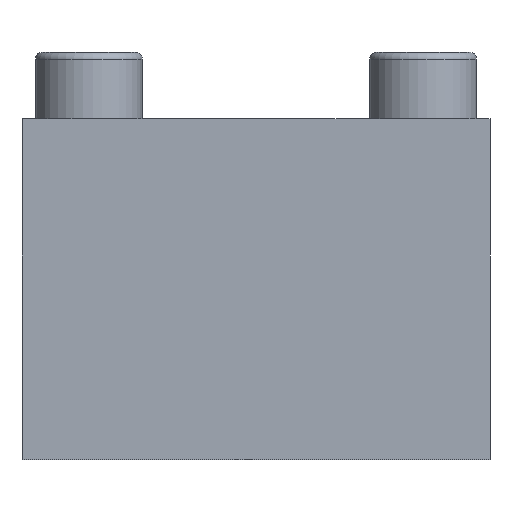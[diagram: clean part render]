
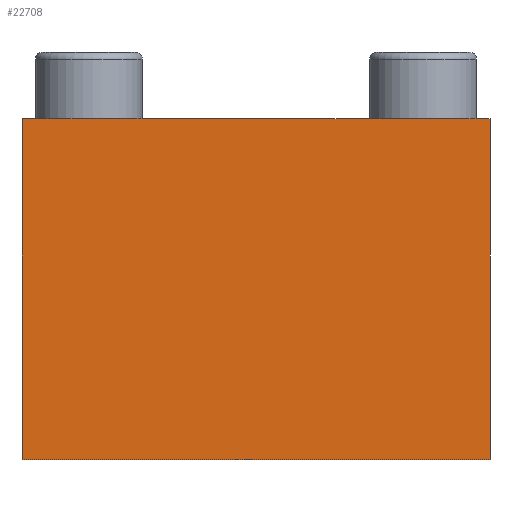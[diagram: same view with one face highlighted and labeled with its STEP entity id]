
A CAD part, front view. The second image highlights one B-rep face of the part: STEP entity #22708.
In plain terms, the highlighted planar face has unit normal (0, -1, 0).
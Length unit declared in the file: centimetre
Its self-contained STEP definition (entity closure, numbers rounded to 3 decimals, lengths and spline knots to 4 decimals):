
#1036=LINE('',#29228,#3548);
#1704=LINE('',#31878,#4216);
#1707=LINE('',#31884,#4219);
#1708=LINE('',#31885,#4220);
#3548=VECTOR('',#24875,7.);
#4216=VECTOR('',#25561,5.1);
#4219=VECTOR('',#25566,5.1);
#4220=VECTOR('',#25567,7.);
#6061=PLANE('',#23936);
#7061=FACE_OUTER_BOUND('',#8368,.T.);
#8368=EDGE_LOOP('',(#15982,#15983,#15984,#15985));
#9646=VERTEX_POINT('',#29225);
#9647=VERTEX_POINT('',#29227);
#10580=VERTEX_POINT('',#31877);
#10582=VERTEX_POINT('',#31883);
#11806=EDGE_CURVE('',#9646,#9647,#1036,.T.);
#12740=EDGE_CURVE('',#9646,#10580,#1704,.T.);
#12743=EDGE_CURVE('',#9647,#10582,#1707,.T.);
#12744=EDGE_CURVE('',#10582,#10580,#1708,.T.);
#15982=ORIENTED_EDGE('',*,*,#12743,.F.);
#15983=ORIENTED_EDGE('',*,*,#11806,.F.);
#15984=ORIENTED_EDGE('',*,*,#12740,.T.);
#15985=ORIENTED_EDGE('',*,*,#12744,.F.);
#22708=ADVANCED_FACE('',(#7061),#6061,.T.);
#23936=AXIS2_PLACEMENT_3D('',#31882,#25564,#25565);
#24875=DIRECTION('',(1.,0.,0.));
#25561=DIRECTION('',(0.,0.,-1.));
#25564=DIRECTION('center_axis',(0.,-1.,0.));
#25565=DIRECTION('ref_axis',(-1.,0.,0.));
#25566=DIRECTION('',(0.,0.,-1.));
#25567=DIRECTION('',(-1.,0.,0.));
#29225=CARTESIAN_POINT('',(-3.5,-8.5,4.1));
#29227=CARTESIAN_POINT('',(3.5,-8.5,4.1));
#29228=CARTESIAN_POINT('',(3.5,-8.5,4.1));
#31877=CARTESIAN_POINT('',(-3.5,-8.5,-1.));
#31878=CARTESIAN_POINT('',(-3.5,-8.5,0.));
#31882=CARTESIAN_POINT('Origin',(3.5,-8.5,3.1));
#31883=CARTESIAN_POINT('',(3.5,-8.5,-1.));
#31884=CARTESIAN_POINT('',(3.5,-8.5,0.));
#31885=CARTESIAN_POINT('',(3.5,-8.5,-1.));
